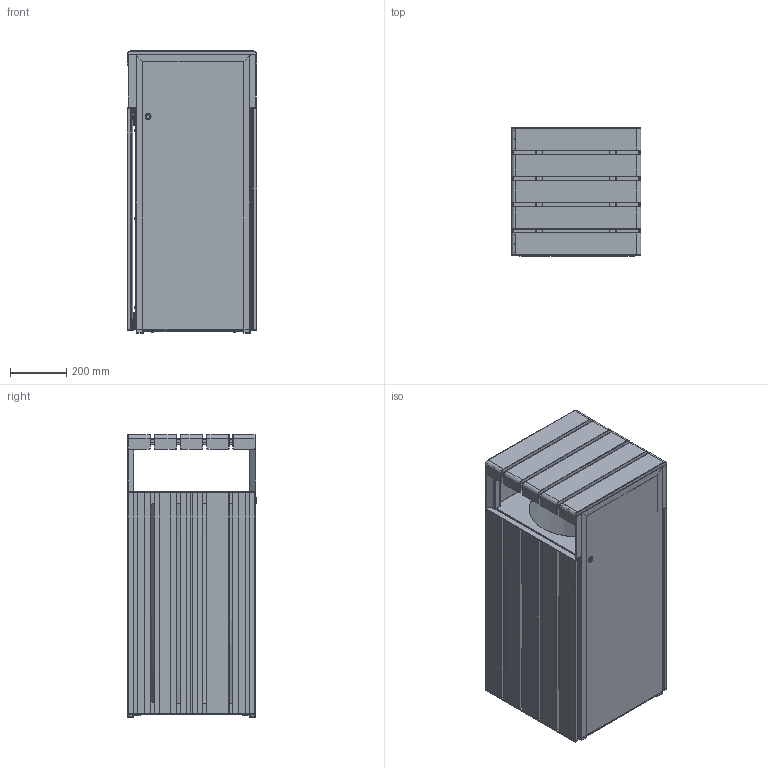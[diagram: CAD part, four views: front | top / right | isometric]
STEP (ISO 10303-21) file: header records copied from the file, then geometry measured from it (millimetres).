
FILE_DESCRIPTION(('STEP AP203'),'1');
FILE_NAME('UT80CE10XXAXX.stp','2026-04-13T14:07:14',(' '),(' '),'Spatial InterOp 3D',' ',' ');
FILE_SCHEMA(('CONFIG_CONTROL_DESIGN'));
Length unit declared in the file: millimetre
Products named in the file (1): UT80CE10XXAXX
Bounding box: 461.01 x 457.8 x 1002 mm (x, y, z)
Surface area: 7842027.2 mm2 (no closed solid volume)
Topology: 0 solids, 96 shells, 1095 faces, 3610 edges, 2540 vertices
Faces by surface type: plane 540, cylinder 407, torus 111, bspline 16, sphere 15, cone 6
Full cylindrical faces by diameter (mm): 3.5 x1, 5 x3, 6 x1, 8.2 x16, 8.5 x10, 10 x5, 14 x1, 18.5 x1, 21.3 x1, 340 x1
Entity records: 39565 total; most frequent: CARTESIAN_POINT 7677, DIRECTION 6864, ORIENTED_EDGE 5665, EDGE_CURVE 3514, VERTEX_POINT 2534, AXIS2_PLACEMENT_3D 2299, LINE 2266, VECTOR 2266
